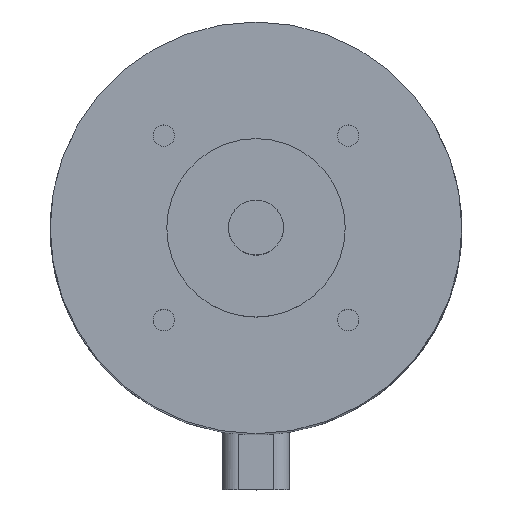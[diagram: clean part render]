
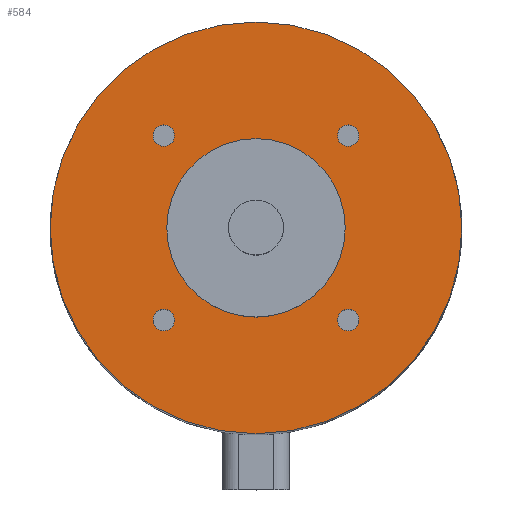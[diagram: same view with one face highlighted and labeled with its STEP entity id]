
A CAD part, top view. The second image highlights one B-rep face of the part: STEP entity #584.
In plain terms, the highlighted planar face has unit normal (0, 0, 1).
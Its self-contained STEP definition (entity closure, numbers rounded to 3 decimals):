
#73=CARTESIAN_POINT('',(-5.934,6.718,0.));
#74=VERTEX_POINT('',#73);
#75=CARTESIAN_POINT('',(-6.718,6.718,0.));
#76=DIRECTION('',(0.0,0.0,-1.0));
#77=DIRECTION('',(1.0,0.0,0.0));
#78=AXIS2_PLACEMENT_3D('',#75,#76,#77);
#79=CIRCLE('',#78,0.784);
#80=EDGE_CURVE('',#74,#74,#79,.T.);
#110=CARTESIAN_POINT('',(7.501,6.718,0.));
#111=VERTEX_POINT('',#110);
#112=CARTESIAN_POINT('',(6.718,6.718,0.));
#113=DIRECTION('',(0.0,0.0,-1.0));
#114=DIRECTION('',(1.0,0.0,0.0));
#115=AXIS2_PLACEMENT_3D('',#112,#113,#114);
#116=CIRCLE('',#115,0.784);
#117=EDGE_CURVE('',#111,#111,#116,.T.);
#147=CARTESIAN_POINT('',(-5.934,-6.718,0.));
#148=VERTEX_POINT('',#147);
#149=CARTESIAN_POINT('',(-6.718,-6.718,0.));
#150=DIRECTION('',(0.0,0.0,-1.0));
#151=DIRECTION('',(1.0,0.0,0.0));
#152=AXIS2_PLACEMENT_3D('',#149,#150,#151);
#153=CIRCLE('',#152,0.784);
#154=EDGE_CURVE('',#148,#148,#153,.T.);
#184=CARTESIAN_POINT('',(7.501,-6.718,0.));
#185=VERTEX_POINT('',#184);
#186=CARTESIAN_POINT('',(6.718,-6.718,0.));
#187=DIRECTION('',(0.0,0.0,-1.0));
#188=DIRECTION('',(1.0,0.0,0.0));
#189=AXIS2_PLACEMENT_3D('',#186,#187,#188);
#190=CIRCLE('',#189,0.784);
#191=EDGE_CURVE('',#185,#185,#190,.T.);
#541=CARTESIAN_POINT('',(0.0,-15.,0.));
#542=VERTEX_POINT('',#541);
#543=CARTESIAN_POINT('',(0.0,0.0,0.));
#544=DIRECTION('',(0.0,0.0,1.0));
#545=DIRECTION('',(0.0,-1.0,0.0));
#546=AXIS2_PLACEMENT_3D('',#543,#544,#545);
#547=CIRCLE('',#546,15.);
#548=EDGE_CURVE('',#542,#542,#547,.T.);
#553=CARTESIAN_POINT('',(0.0,-10.75,0.));
#554=DIRECTION('',(0.0,0.0,1.0));
#555=DIRECTION('',(1.0,0.0,0.0));
#556=AXIS2_PLACEMENT_3D('',#553,#554,#555);
#557=PLANE('',#556);
#558=ORIENTED_EDGE('',*,*,#548,.T.);
#559=EDGE_LOOP('',(#558));
#560=FACE_OUTER_BOUND('',#559,.T.);
#561=ORIENTED_EDGE('',*,*,#80,.T.);
#562=EDGE_LOOP('',(#561));
#563=FACE_BOUND('',#562,.T.);
#564=ORIENTED_EDGE('',*,*,#117,.T.);
#565=EDGE_LOOP('',(#564));
#566=FACE_BOUND('',#565,.T.);
#567=ORIENTED_EDGE('',*,*,#154,.T.);
#568=EDGE_LOOP('',(#567));
#569=FACE_BOUND('',#568,.T.);
#570=ORIENTED_EDGE('',*,*,#191,.T.);
#571=EDGE_LOOP('',(#570));
#572=FACE_BOUND('',#571,.T.);
#573=CARTESIAN_POINT('',(0.0,-6.5,0.0));
#574=VERTEX_POINT('',#573);
#575=CARTESIAN_POINT('',(0.0,0.0,0.0));
#576=DIRECTION('',(0.0,0.0,1.0));
#577=DIRECTION('',(0.0,-1.0,0.0));
#578=AXIS2_PLACEMENT_3D('',#575,#576,#577);
#579=CIRCLE('',#578,6.5);
#580=EDGE_CURVE('',#574,#574,#579,.T.);
#581=ORIENTED_EDGE('',*,*,#580,.F.);
#582=EDGE_LOOP('',(#581));
#583=FACE_BOUND('',#582,.T.);
#584=ADVANCED_FACE('',(#560,#563,#566,#569,#572,#583),#557,.T.);
